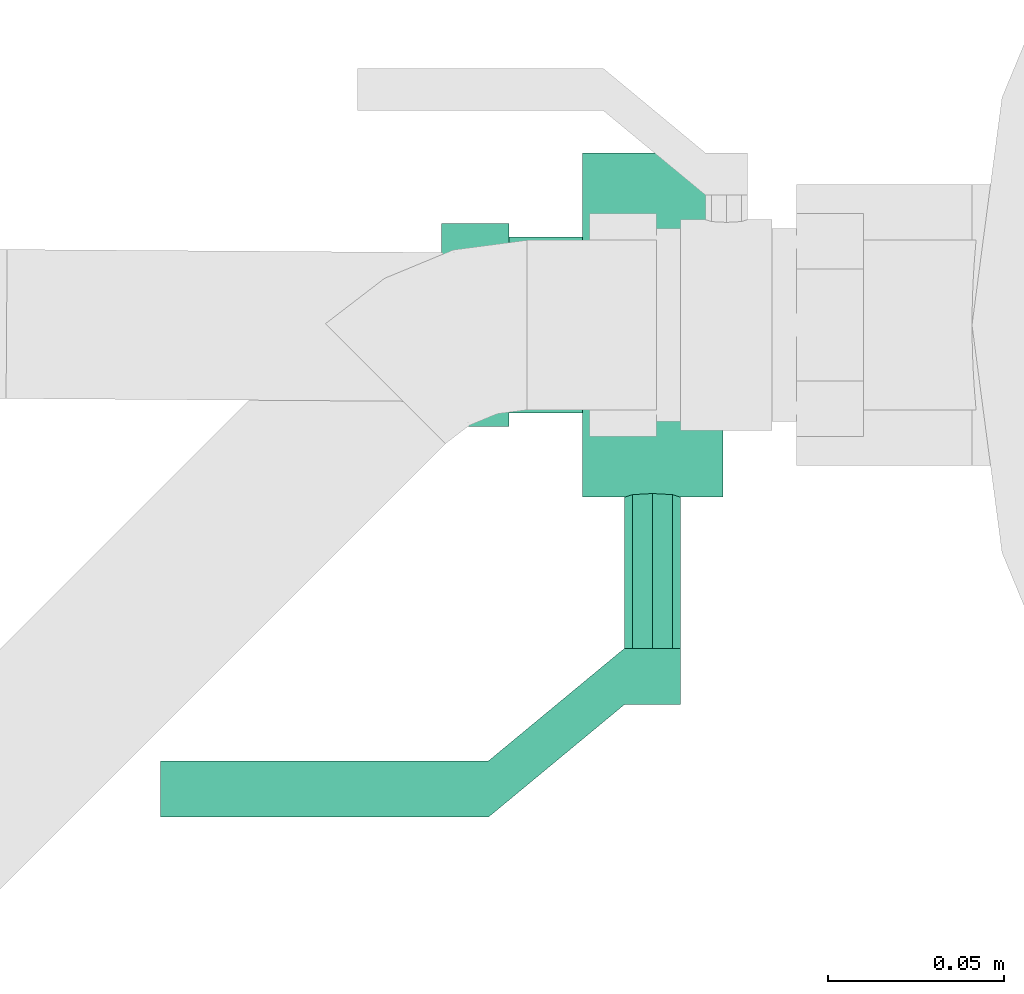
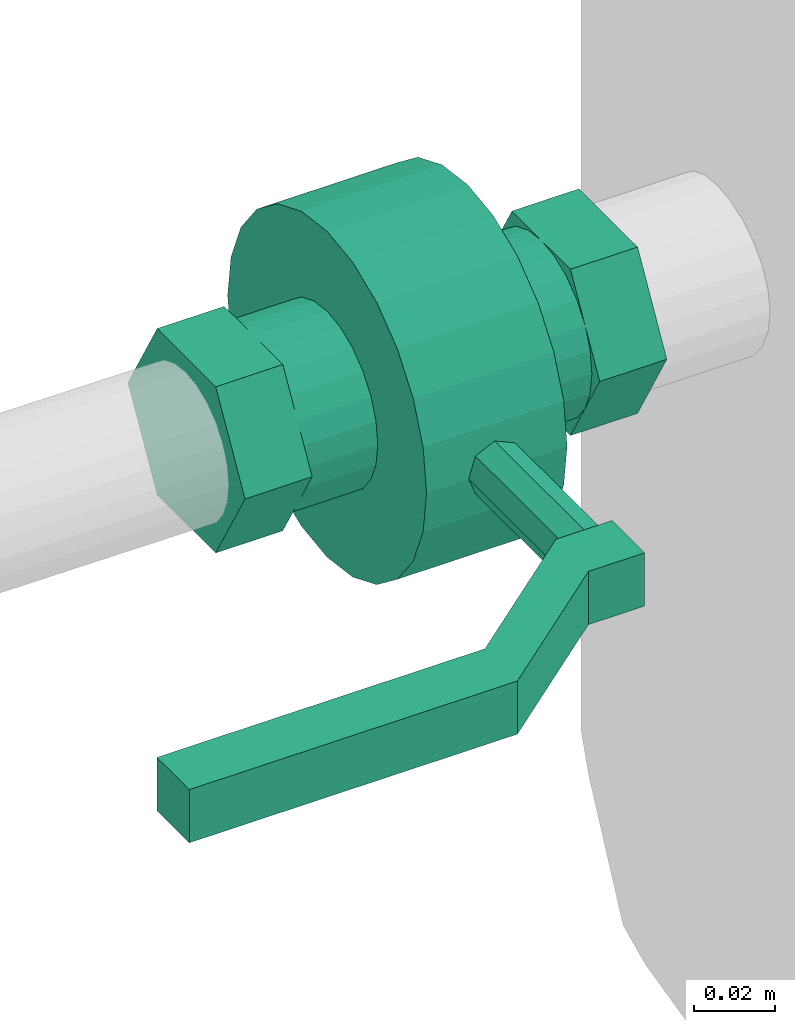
# One storey, part 277 of 374: 1 flow controller.
"""IFC2X3 building model written with IfcOpenShell, lengths in metres."""

import ifcopenshell
import ifcopenshell.guid

model = None  # the IFC model being written
_history = None  # IfcOwnerHistory: only IFC2X3 demands one
_inside = {}  # id of a spatial element -> (the spatial element, [elements in it])
_under = {}  # id of a project, library or spatial element -> (it, [spatial elements below it])
_declared = {}  # id of a project -> (the project, [libraries it declares])
_typed = {}  # id of a type object -> (the type object, [elements of that type])
_made_of = {}  # id of a material, layer set ... -> (it, [elements and type objects made of it])


def new_model(schema):
    """Start an empty IFC model of exactly this schema.

    Asked for "IFC4X3", IfcOpenShell would pick the latest addendum, in which some entities
    have other attributes; the version numbers below select the first issue.
    IFC2X3 requires an IfcOwnerHistory on every rooted entity: one is made here for all.
    """
    global model, _history
    if schema == "IFC4X3":
        model = ifcopenshell.file(schema_version=(4, 3, 0, 0))
    else:
        model = ifcopenshell.file(schema=schema)
    _inside.clear()
    _under.clear()
    _declared.clear()
    _typed.clear()
    _made_of.clear()
    _history = None
    if model.schema == "IFC2X3":
        org = make("IfcOrganization", Name="unknown")
        user = make(
            "IfcPersonAndOrganization",
            ThePerson=make("IfcPerson", FamilyName="unknown"),
            TheOrganization=org,
        )
        app = make(
            "IfcApplication",
            ApplicationDeveloper=org,
            Version="unknown",
            ApplicationFullName="unknown",
            ApplicationIdentifier="unknown",
        )
        _history = make(
            "IfcOwnerHistory",
            OwningUser=user,
            OwningApplication=app,
            ChangeAction="ADDED",
            CreationDate=0,
        )
    return model


def make(cls, **values):
    """One entity of the class cls with the attributes given. An attribute that is None is left unset."""
    return model.create_entity(
        cls, **{name: value for name, value in values.items() if value is not None}
    )


def rooted(cls, **values):
    """An entity with a GlobalId (a new one), such as an element, a storey or a relation."""
    return make(cls, GlobalId=ifcopenshell.guid.new(), OwnerHistory=_history, **values)


def si_unit(unit_type, name, prefix=None):
    """IfcSIUnit, for example si_unit("LENGTHUNIT", "METRE", prefix="MILLI")."""
    return make("IfcSIUnit", UnitType=unit_type, Prefix=prefix, Name=name)


def assignment(units):
    """IfcUnitAssignment: the units of a project."""
    return None if units is None else make("IfcUnitAssignment", Units=units)


def point(xyz):
    """IfcCartesianPoint."""
    return None if xyz is None else make("IfcCartesianPoint", Coordinates=xyz)


def direction(xyz):
    """IfcDirection."""
    return None if xyz is None else make("IfcDirection", DirectionRatios=xyz)


def frame(location, z_axis=None, x_axis=None):
    """IfcAxis2Placement3D, a coordinate frame: its origin and axes. An axis left out is left unset."""
    return make(
        "IfcAxis2Placement3D",
        Location=point(location),
        Axis=direction(z_axis),
        RefDirection=direction(x_axis),
    )


def origin():
    """The frame at (0, 0, 0) with its axes left unset."""
    return frame((0.0, 0.0, 0.0))


def place(relative_to, where):
    """IfcLocalPlacement: puts the frame where relative to a parent placement (None: the world)."""
    return make(
        "IfcLocalPlacement", PlacementRelTo=relative_to, RelativePlacement=where
    )


def context(
    kind, dimensions, precision=None, world=None, true_north=None, identifier=None
):
    """IfcGeometricRepresentationContext, for example the 3D "Model" context."""
    return make(
        "IfcGeometricRepresentationContext",
        ContextIdentifier=identifier,
        ContextType=kind,
        CoordinateSpaceDimension=dimensions,
        Precision=precision,
        WorldCoordinateSystem=world,
        TrueNorth=true_north,
    )


def subcontext(parent, identifier, kind, view, scale=None):
    """IfcGeometricRepresentationSubContext, for example "Body" below "Model"."""
    return make(
        "IfcGeometricRepresentationSubContext",
        ContextIdentifier=identifier,
        ContextType=kind,
        ParentContext=parent,
        TargetScale=scale,
        TargetView=view,
    )


def project(units=None, contexts=None):
    """IfcProject with its units and contexts."""
    return rooted(
        "IfcProject",
        Name="project",
        RepresentationContexts=contexts,
        UnitsInContext=assignment(units),
    )


def spatial(cls, under=None, at=None, **own):
    """A site, building, storey or space (cls), placed at a placement, below another one or the project."""
    s = rooted(cls, ObjectPlacement=at, **own)
    if under is not None:
        _under.setdefault(under.id(), (under, []))[1].append(s)
    return s


def faces_of(points, faces, orient=None, outer=None):
    """IfcFace entities. A face is a list of loops; a loop is a list of indices into points, from 0.

    orient and outer hold one flag for each loop. By default every Orientation is true, the
    first loop of a face is its IfcFaceOuterBound and the others are IfcFaceBound.
    """
    made = []
    for i, loops in enumerate(faces):
        bounds = []
        for j, loop in enumerate(loops):
            is_outer = j == 0 if outer is None else outer[i][j]
            bounds.append(
                make(
                    "IfcFaceOuterBound" if is_outer else "IfcFaceBound",
                    Bound=make("IfcPolyLoop", Polygon=[points[k] for k in loop]),
                    Orientation=True if orient is None else orient[i][j],
                )
            )
        made.append(make("IfcFace", Bounds=bounds))
    return made


def open_shell(faces, orient=None, outer=None):
    """The faces of one IfcOpenShell. surface_model builds it on its shared points."""
    return ("IfcOpenShell", faces, orient, outer)


def surface_model(cls, points, shells):
    """IfcFaceBasedSurfaceModel or IfcShellBasedSurfaceModel (cls): surfaces that need not close."""
    shared = [point(p) for p in points]
    made = [make(c, CfsFaces=faces_of(shared, fs, o, b)) for c, fs, o, b in shells]
    if cls == "IfcFaceBasedSurfaceModel":
        return make(cls, FbsmFaces=made)
    return make(cls, SbsmBoundary=made)


def shape(context_of_items, identifier, shape_type, items):
    """IfcShapeRepresentation: the items that make up one representation, for example the "Body"."""
    return make(
        "IfcShapeRepresentation",
        ContextOfItems=context_of_items,
        RepresentationIdentifier=identifier,
        RepresentationType=shape_type,
        Items=items,
    )


def source(mapping_origin, context_of_items, identifier, shape_type, items):
    """IfcRepresentationMap: a shape defined once, which mapped items show again and again."""
    return make(
        "IfcRepresentationMap",
        MappingOrigin=mapping_origin,
        MappedRepresentation=shape(context_of_items, identifier, shape_type, items),
    )


def transform(
    local_origin,
    x_axis=None,
    y_axis=None,
    z_axis=None,
    scale=None,
    scale2=None,
    scale3=None,
    uniform=True,
):
    """IfcCartesianTransformationOperator3D, or its non-uniform kind. x_axis, y_axis, z_axis: its Axis1, 2, 3."""
    if uniform:
        return make(
            "IfcCartesianTransformationOperator3D",
            Axis1=direction(x_axis),
            Axis2=direction(y_axis),
            LocalOrigin=point(local_origin),
            Scale=scale,
            Axis3=direction(z_axis),
        )
    return make(
        "IfcCartesianTransformationOperator3DnonUniform",
        Axis1=direction(x_axis),
        Axis2=direction(y_axis),
        LocalOrigin=point(local_origin),
        Scale=scale,
        Axis3=direction(z_axis),
        Scale2=scale2,
        Scale3=scale3,
    )


def mapped(mapping_source, mapping_target):
    """IfcMappedItem: shows the shape of a source again, moved by a transform."""
    return make(
        "IfcMappedItem", MappingSource=mapping_source, MappingTarget=mapping_target
    )


def made_of(thing, what):
    """Note that an element or type object is made of a material, layer set ...; save() writes the relation."""
    if what is not None:
        _made_of.setdefault(what.id(), (what, []))[1].append(thing)
    return thing


def element(
    cls,
    number,
    at=None,
    inside=None,
    cuts=None,
    type_object=None,
    material=None,
    context=None,
    identifier="Body",
    shape_type=None,
    held_by="IfcProductDefinitionShape",
    body=None,
    shapes=None,
    **own,
):
    """One element of the class cls, such as IfcWall. Its Tag is "e" and its number.

    at: its placement. inside: the storey or other place that contains it. cuts: it is an
    opening in that element (IfcRelVoidsElement). A single representation is given by context,
    identifier, shape_type and body (its items); several are given by shapes. held_by: the class
    of the entity that holds the representations. save() writes the other relations.
    """
    e = rooted(cls, Tag="e%d" % number, ObjectPlacement=at, **own)
    if body is not None:
        shapes = [shape(context, identifier, shape_type, body)]
    if shapes is not None:
        e.Representation = make(held_by, Representations=shapes)
    if inside is not None:
        _inside.setdefault(inside.id(), (inside, []))[1].append(e)
    if cuts is not None:
        rooted(
            "IfcRelVoidsElement", RelatingBuildingElement=cuts, RelatedOpeningElement=e
        )
    if type_object is not None:
        _typed.setdefault(type_object.id(), (type_object, []))[1].append(e)
    return made_of(e, material)


def aggregate(whole, parts):
    """IfcRelAggregates: a whole, such as a stair, and the parts it consists of."""
    return rooted("IfcRelAggregates", RelatingObject=whole, RelatedObjects=parts)


def save(model, path):
    """Write the relations noted so far, then the file.

    IfcRelAggregates (storeys below a building ...), IfcRelContainedInSpatialStructure (elements
    in a storey), IfcRelDefinesByType, IfcRelAssociatesMaterial and IfcRelDeclares: one each for
    every whole, place, type object, material and project.
    """
    for whole, parts in _under.values():
        aggregate(whole, parts)
    for where, things in _inside.values():
        rooted(
            "IfcRelContainedInSpatialStructure",
            RelatedElements=things,
            RelatingStructure=where,
        )
    for kind, things in _typed.values():
        rooted("IfcRelDefinesByType", RelatedObjects=things, RelatingType=kind)
    for what, things in _made_of.values():
        rooted("IfcRelAssociatesMaterial", RelatedObjects=things, RelatingMaterial=what)
    for by, libraries in _declared.values():
        rooted("IfcRelDeclares", RelatingContext=by, RelatedDefinitions=libraries)
    model.write(path)


model = new_model("IFC2X3")

# Units and contexts
model_context = context("Model", 3, precision=1e-05, world=origin(), true_north=direction((-0.4480736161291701, 0.8939966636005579)))
body_context = subcontext(model_context, "Body", "Model", "MODEL_VIEW")
ifc_project = project(units=[si_unit("LENGTHUNIT", "METRE"), si_unit("AREAUNIT", "SQUARE_METRE"), si_unit("VOLUMEUNIT", "CUBIC_METRE"), si_unit("PLANEANGLEUNIT", "RADIAN"), si_unit("THERMODYNAMICTEMPERATUREUNIT", "KELVIN"), si_unit("MASSUNIT", "GRAM", prefix="KILO"), si_unit("TIMEUNIT", "SECOND")], contexts=[model_context])

# Site, building, storey
site_placement = place(None, origin())
site = spatial("IfcSite", under=ifc_project, at=site_placement, Name="Site 1", CompositionType="ELEMENT")
building_placement = place(site_placement, origin())
building = spatial("IfcBuilding", under=site, at=building_placement, Name="Undefined", CompositionType="ELEMENT")
storey_placement = place(building_placement, origin())
storey = spatial("IfcBuildingStorey", under=building, at=storey_placement, Name="Rez de chauss\x8ee", CompositionType="ELEMENT", Elevation=0.0)

# Flow controller
shared_shape = source(origin(), body_context, "Body", "SurfaceModel", [
    surface_model("IfcFaceBasedSurfaceModel", [(0.0, 0.015999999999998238, 0.0), (0.0, 0.0, 0.0), (0.016000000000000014, 0.0, 0.0), (0.016000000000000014, 0.015999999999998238, 0.0), (0.0, 0.0, -0.016000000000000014), (0.016000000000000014, 0.0, -0.016000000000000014), (0.0, 0.015999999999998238, -0.016000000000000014), (0.016000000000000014, 0.015999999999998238, -0.016000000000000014), (0.0, 0.05466666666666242, -0.04800000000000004), (0.016000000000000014, 0.05466666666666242, -0.04800000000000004), (0.0, 0.14799999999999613, -0.04800000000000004), (0.016000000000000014, 0.14799999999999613, -0.04800000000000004), (0.0, 0.14799999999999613, -0.03200000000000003), (0.016000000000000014, 0.14799999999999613, -0.03200000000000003), (0.0, 0.05466666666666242, -0.03200000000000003), (0.016000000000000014, 0.05466666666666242, -0.03200000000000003), (0.03300000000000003, -0.0519999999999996, 0.10643375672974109), (0.03300000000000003, -0.0519999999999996, 0.07756624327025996), (0.03300000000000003, -0.032900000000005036, 0.07756624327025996), (0.03300000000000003, -0.032900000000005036, 0.10643375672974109), (0.008000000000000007, -0.0519999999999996, 0.12086751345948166), (0.008000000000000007, -0.032900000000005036, 0.12086751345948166), (-0.017000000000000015, -0.0519999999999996, 0.10643375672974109), (-0.017000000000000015, -0.032900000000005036, 0.10643375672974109), (-0.017000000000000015, -0.0519999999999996, 0.07756624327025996), (-0.017000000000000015, -0.032900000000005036, 0.07756624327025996), (0.008000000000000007, -0.0519999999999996, 0.0631324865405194), (0.008000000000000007, -0.032900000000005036, 0.0631324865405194), (-0.017000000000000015, -0.032900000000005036, 0.09200000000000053), (-0.016148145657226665, -0.032900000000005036, 0.09847047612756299), (-0.016148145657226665, -0.012000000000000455, 0.09847047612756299), (-0.017000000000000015, -0.012000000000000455, 0.09200000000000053), (-0.013650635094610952, -0.032900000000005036, 0.10449999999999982), (-0.013650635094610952, -0.012000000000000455, 0.10449999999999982), (-0.009677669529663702, -0.032900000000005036, 0.10967766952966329), (-0.009677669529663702, -0.012000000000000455, 0.10967766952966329), (-0.004500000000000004, -0.032900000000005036, 0.11365063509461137), (-0.004500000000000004, -0.012000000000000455, 0.11365063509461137), (0.0015295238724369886, -0.032900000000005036, 0.11614814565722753), (0.0015295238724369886, -0.012000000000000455, 0.11614814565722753), (0.008000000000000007, -0.032900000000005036, 0.11700000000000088), (0.008000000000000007, -0.012000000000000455, 0.11700000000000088), (0.014470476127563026, -0.032900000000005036, 0.11614814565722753), (0.014470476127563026, -0.012000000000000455, 0.11614814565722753), (0.020500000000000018, -0.032900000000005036, 0.11365063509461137), (0.020500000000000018, -0.012000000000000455, 0.11365063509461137), (0.025677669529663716, -0.032900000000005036, 0.10967766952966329), (0.025677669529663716, -0.012000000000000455, 0.10967766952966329), (0.029650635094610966, -0.032900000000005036, 0.10449999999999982), (0.029650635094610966, -0.012000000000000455, 0.10449999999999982), (0.03214814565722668, -0.032900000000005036, 0.09847047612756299), (0.03214814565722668, -0.012000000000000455, 0.09847047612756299), (0.03300000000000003, -0.032900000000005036, 0.09200000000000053), (0.03300000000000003, -0.012000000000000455, 0.09200000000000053), (0.03214814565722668, -0.032900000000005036, 0.08552952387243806), (0.03214814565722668, -0.012000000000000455, 0.08552952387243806), (0.029650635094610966, -0.032900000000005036, 0.07949999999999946), (0.029650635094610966, -0.012000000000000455, 0.07949999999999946), (0.025677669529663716, -0.032900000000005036, 0.07432233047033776), (0.025677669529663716, -0.012000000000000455, 0.07432233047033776), (0.020500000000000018, -0.032900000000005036, 0.07034936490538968), (0.020500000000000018, -0.012000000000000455, 0.07034936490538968), (0.014470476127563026, -0.032900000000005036, 0.06785185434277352), (0.014470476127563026, -0.012000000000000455, 0.06785185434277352), (0.008000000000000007, -0.032900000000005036, 0.06700000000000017), (0.008000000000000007, -0.012000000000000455, 0.06700000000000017), (0.0015295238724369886, -0.032900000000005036, 0.06785185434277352), (0.0015295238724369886, -0.012000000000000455, 0.06785185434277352), (-0.004500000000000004, -0.032900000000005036, 0.07034936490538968), (-0.004500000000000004, -0.012000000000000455, 0.07034936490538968), (-0.009677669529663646, -0.032900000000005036, 0.07432233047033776), (-0.009677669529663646, -0.012000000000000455, 0.07432233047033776), (-0.013650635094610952, -0.032900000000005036, 0.07949999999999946), (-0.013650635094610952, -0.012000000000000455, 0.07949999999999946), (-0.016148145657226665, -0.032900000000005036, 0.08552952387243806), (-0.016148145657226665, -0.012000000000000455, 0.08552952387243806), (-0.04099999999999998, -0.012000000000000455, 0.09200000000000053), (-0.039330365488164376, -0.012000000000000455, 0.10468213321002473), (-0.039330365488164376, 0.027999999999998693, 0.10468213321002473), (-0.04099999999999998, 0.027999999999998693, 0.09200000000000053), (-0.03443524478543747, -0.012000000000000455, 0.11650000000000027), (-0.03443524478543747, 0.027999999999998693, 0.11650000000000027), (-0.026648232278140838, -0.012000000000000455, 0.12664823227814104), (-0.026648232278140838, 0.027999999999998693, 0.12664823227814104), (-0.016500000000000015, -0.012000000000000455, 0.134435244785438), (-0.016500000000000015, 0.027999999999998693, 0.134435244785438), (-0.004682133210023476, -0.012000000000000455, 0.13933036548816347), (-0.004682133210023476, 0.027999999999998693, 0.13933036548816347), (0.008000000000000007, -0.012000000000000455, 0.14100000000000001), (0.008000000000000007, 0.027999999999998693, 0.14100000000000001), (0.02068213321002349, -0.012000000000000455, 0.13933036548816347), (0.02068213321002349, 0.027999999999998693, 0.13933036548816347), (0.03250000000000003, -0.012000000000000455, 0.134435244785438), (0.03250000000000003, 0.027999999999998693, 0.134435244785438), (0.04264823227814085, -0.012000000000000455, 0.12664823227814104), (0.04264823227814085, 0.027999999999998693, 0.12664823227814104), (0.05043524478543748, -0.012000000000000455, 0.11650000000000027), (0.05043524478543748, 0.027999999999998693, 0.11650000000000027), (0.05533036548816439, -0.012000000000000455, 0.10468213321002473), (0.05533036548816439, 0.027999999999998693, 0.10468213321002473), (0.056999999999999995, -0.012000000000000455, 0.09200000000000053), (0.056999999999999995, 0.027999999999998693, 0.09200000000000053), (0.05533036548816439, -0.012000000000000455, 0.07931786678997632), (0.05533036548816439, 0.027999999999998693, 0.07931786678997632), (0.05043524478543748, -0.012000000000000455, 0.06750000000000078), (0.05043524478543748, 0.027999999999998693, 0.06750000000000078), (0.04264823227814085, -0.012000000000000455, 0.05735176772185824), (0.04264823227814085, 0.027999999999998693, 0.05735176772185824), (0.03250000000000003, -0.012000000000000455, 0.04956475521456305), (0.03250000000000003, 0.027999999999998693, 0.04956475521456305), (0.020682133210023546, -0.012000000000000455, 0.04466963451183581), (0.020682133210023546, 0.027999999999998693, 0.04466963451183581), (0.008000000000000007, -0.012000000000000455, 0.04300000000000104), (0.008000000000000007, 0.027999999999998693, 0.04300000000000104), (-0.004682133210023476, -0.012000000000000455, 0.04466963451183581), (-0.004682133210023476, 0.027999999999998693, 0.04466963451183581), (-0.016500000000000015, -0.012000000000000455, 0.04956475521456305), (-0.016500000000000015, 0.027999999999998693, 0.04956475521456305), (-0.026648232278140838, -0.012000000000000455, 0.05735176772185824), (-0.026648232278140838, 0.027999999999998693, 0.05735176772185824), (-0.03443524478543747, -0.012000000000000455, 0.06750000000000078), (-0.03443524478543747, 0.027999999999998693, 0.06750000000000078), (-0.039330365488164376, -0.012000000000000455, 0.07931786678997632), (-0.039330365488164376, 0.027999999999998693, 0.07931786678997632), (0.008000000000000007, -0.012000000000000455, 0.09200000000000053), (0.008000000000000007, 0.027999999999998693, 0.09200000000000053), (-0.017000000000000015, 0.027999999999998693, 0.09200000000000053), (-0.016148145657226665, 0.027999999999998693, 0.09847047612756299), (-0.016148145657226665, 0.048900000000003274, 0.09847047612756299), (-0.017000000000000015, 0.048900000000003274, 0.09200000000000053), (-0.013650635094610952, 0.027999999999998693, 0.10449999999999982), (-0.013650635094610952, 0.048900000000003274, 0.10449999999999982), (-0.009677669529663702, 0.027999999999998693, 0.10967766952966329), (-0.009677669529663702, 0.048900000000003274, 0.10967766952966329), (-0.004500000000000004, 0.027999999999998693, 0.11365063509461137), (-0.004500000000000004, 0.048900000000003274, 0.11365063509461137), (0.0015295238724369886, 0.027999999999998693, 0.11614814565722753), (0.0015295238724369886, 0.048900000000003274, 0.11614814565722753), (0.008000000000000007, 0.027999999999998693, 0.11700000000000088), (0.008000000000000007, 0.048900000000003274, 0.11700000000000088), (0.014470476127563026, 0.027999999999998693, 0.11614814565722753), (0.014470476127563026, 0.048900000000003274, 0.11614814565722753), (0.020500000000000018, 0.027999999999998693, 0.11365063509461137), (0.020500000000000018, 0.048900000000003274, 0.11365063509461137), (0.025677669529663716, 0.027999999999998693, 0.10967766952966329), (0.025677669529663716, 0.048900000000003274, 0.10967766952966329), (0.029650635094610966, 0.027999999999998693, 0.10449999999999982), (0.029650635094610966, 0.048900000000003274, 0.10449999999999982), (0.03214814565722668, 0.027999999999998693, 0.09847047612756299), (0.03214814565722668, 0.048900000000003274, 0.09847047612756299), (0.03300000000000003, 0.027999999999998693, 0.09200000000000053), (0.03300000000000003, 0.048900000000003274, 0.09200000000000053), (0.03214814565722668, 0.027999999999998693, 0.08552952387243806), (0.03214814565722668, 0.048900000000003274, 0.08552952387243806), (0.029650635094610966, 0.027999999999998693, 0.07949999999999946), (0.029650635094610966, 0.048900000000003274, 0.07949999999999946), (0.025677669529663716, 0.027999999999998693, 0.07432233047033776), (0.025677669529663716, 0.048900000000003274, 0.07432233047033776), (0.020500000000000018, 0.027999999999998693, 0.07034936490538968), (0.020500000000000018, 0.048900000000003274, 0.07034936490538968), (0.014470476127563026, 0.027999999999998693, 0.06785185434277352), (0.014470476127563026, 0.048900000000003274, 0.06785185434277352), (0.008000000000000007, 0.027999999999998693, 0.06700000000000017), (0.008000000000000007, 0.048900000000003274, 0.06700000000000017), (0.0015295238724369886, 0.027999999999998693, 0.06785185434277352), (0.0015295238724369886, 0.048900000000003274, 0.06785185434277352), (-0.004500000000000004, 0.027999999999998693, 0.07034936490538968), (-0.004500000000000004, 0.048900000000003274, 0.07034936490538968), (-0.009677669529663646, 0.027999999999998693, 0.07432233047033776), (-0.009677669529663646, 0.048900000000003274, 0.07432233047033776), (-0.013650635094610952, 0.027999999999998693, 0.07949999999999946), (-0.013650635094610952, 0.048900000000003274, 0.07949999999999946), (-0.016148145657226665, 0.027999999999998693, 0.08552952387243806), (-0.016148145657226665, 0.048900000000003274, 0.08552952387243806), (0.03300000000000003, 0.048900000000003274, 0.10643375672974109), (0.03300000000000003, 0.048900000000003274, 0.07756624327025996), (0.03300000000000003, 0.06799999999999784, 0.07756624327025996), (0.03300000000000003, 0.06799999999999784, 0.10643375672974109), (0.008000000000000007, 0.048900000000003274, 0.12086751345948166), (0.008000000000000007, 0.06799999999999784, 0.12086751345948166), (-0.017000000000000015, 0.048900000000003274, 0.10643375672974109), (-0.017000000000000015, 0.06799999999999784, 0.10643375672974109), (-0.017000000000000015, 0.048900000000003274, 0.07756624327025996), (-0.017000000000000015, 0.06799999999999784, 0.07756624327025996), (0.007999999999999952, 0.048900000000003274, 0.0631324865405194), (0.007999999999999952, 0.06799999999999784, 0.0631324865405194), (0.008000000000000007, 0.015999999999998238, 0.09200000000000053), (0.013656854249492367, 0.013656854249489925, 0.09200000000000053), (0.013656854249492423, 0.013656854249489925, 0.0), (0.008000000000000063, 0.015999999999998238, 0.0), (0.016000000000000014, 0.008000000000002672, 0.09200000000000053), (0.016000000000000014, 0.008000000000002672, 0.0), (0.013656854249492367, 0.002343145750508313, 0.09200000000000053), (0.013656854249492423, 0.002343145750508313, 0.0), (0.008000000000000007, 0.0, 0.09200000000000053), (0.008000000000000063, 0.0, 0.0), (0.002343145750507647, 0.002343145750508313, 0.09200000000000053), (0.002343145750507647, 0.002343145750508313, 0.0), (0.0, 0.008000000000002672, 0.09200000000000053), (0.0, 0.008, 0.0), (0.002343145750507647, 0.013656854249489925, 0.09200000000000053), (0.002343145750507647, 0.013656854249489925, 0.0)], [open_shell([[[0, 1, 2, 3]], [[1, 4, 5, 2]], [[4, 6, 7, 5]], [[6, 8, 9, 7]], [[8, 10, 11, 9]], [[10, 12, 13, 11]], [[12, 14, 15, 13]], [[14, 0, 3, 15]], [[2, 7, 3]], [[9, 3, 7]], [[3, 9, 15]], [[11, 15, 9]], [[15, 11, 13]], [[7, 2, 5]], [[0, 6, 1]], [[6, 0, 8]], [[14, 8, 0]], [[8, 14, 10]], [[12, 10, 14]], [[4, 1, 6]], [[16, 17, 18, 19]], [[20, 16, 19, 21]], [[22, 20, 21, 23]], [[24, 22, 23, 25]], [[26, 24, 25, 27]], [[17, 26, 27, 18]], [[17, 16, 20]], [[17, 20, 22]], [[17, 22, 24]], [[17, 24, 26]], [[18, 21, 19]], [[18, 23, 21]], [[18, 25, 23]], [[18, 27, 25]], [[28, 29, 30, 31]], [[29, 32, 33, 30]], [[32, 34, 35, 33]], [[34, 36, 37, 35]], [[36, 38, 39, 37]], [[38, 40, 41, 39]], [[40, 42, 43, 41]], [[42, 44, 45, 43]], [[44, 46, 47, 45]], [[46, 48, 49, 47]], [[48, 50, 51, 49]], [[50, 52, 53, 51]], [[52, 54, 55, 53]], [[54, 56, 57, 55]], [[56, 58, 59, 57]], [[58, 60, 61, 59]], [[60, 62, 63, 61]], [[62, 64, 65, 63]], [[64, 66, 67, 65]], [[66, 68, 69, 67]], [[68, 70, 71, 69]], [[70, 72, 73, 71]], [[72, 74, 75, 73]], [[74, 28, 31, 75]], [[76, 77, 78, 79]], [[77, 80, 81, 78]], [[80, 82, 83, 81]], [[82, 84, 85, 83]], [[84, 86, 87, 85]], [[86, 88, 89, 87]], [[88, 90, 91, 89]], [[90, 92, 93, 91]], [[92, 94, 95, 93]], [[94, 96, 97, 95]], [[96, 98, 99, 97]], [[98, 100, 101, 99]], [[100, 102, 103, 101]], [[102, 104, 105, 103]], [[104, 106, 107, 105]], [[106, 108, 109, 107]], [[108, 110, 111, 109]], [[110, 112, 113, 111]], [[112, 114, 115, 113]], [[114, 116, 117, 115]], [[116, 118, 119, 117]], [[118, 120, 121, 119]], [[120, 122, 123, 121]], [[122, 76, 79, 123]], [[124, 77, 76]], [[124, 80, 77]], [[124, 82, 80]], [[124, 84, 82]], [[124, 86, 84]], [[124, 88, 86]], [[124, 90, 88]], [[124, 92, 90]], [[124, 94, 92]], [[124, 96, 94]], [[124, 98, 96]], [[124, 100, 98]], [[124, 102, 100]], [[124, 104, 102]], [[124, 106, 104]], [[124, 108, 106]], [[124, 110, 108]], [[124, 112, 110]], [[124, 114, 112]], [[124, 116, 114]], [[124, 118, 116]], [[124, 120, 118]], [[124, 122, 120]], [[124, 76, 122]], [[125, 123, 79]], [[125, 121, 123]], [[125, 119, 121]], [[125, 117, 119]], [[125, 115, 117]], [[125, 113, 115]], [[125, 111, 113]], [[125, 109, 111]], [[125, 107, 109]], [[125, 105, 107]], [[125, 103, 105]], [[125, 101, 103]], [[125, 99, 101]], [[125, 97, 99]], [[125, 95, 97]], [[125, 93, 95]], [[125, 91, 93]], [[125, 89, 91]], [[125, 87, 89]], [[125, 85, 87]], [[125, 83, 85]], [[125, 81, 83]], [[125, 78, 81]], [[125, 79, 78]], [[126, 127, 128, 129]], [[127, 130, 131, 128]], [[130, 132, 133, 131]], [[132, 134, 135, 133]], [[134, 136, 137, 135]], [[136, 138, 139, 137]], [[138, 140, 141, 139]], [[140, 142, 143, 141]], [[142, 144, 145, 143]], [[144, 146, 147, 145]], [[146, 148, 149, 147]], [[148, 150, 151, 149]], [[150, 152, 153, 151]], [[152, 154, 155, 153]], [[154, 156, 157, 155]], [[156, 158, 159, 157]], [[158, 160, 161, 159]], [[160, 162, 163, 161]], [[162, 164, 165, 163]], [[164, 166, 167, 165]], [[166, 168, 169, 167]], [[168, 170, 171, 169]], [[170, 172, 173, 171]], [[172, 126, 129, 173]], [[174, 175, 176, 177]], [[178, 174, 177, 179]], [[180, 178, 179, 181]], [[182, 180, 181, 183]], [[184, 182, 183, 185]], [[175, 184, 185, 176]], [[175, 174, 178]], [[175, 178, 180]], [[175, 180, 182]], [[175, 182, 184]], [[176, 179, 177]], [[176, 181, 179]], [[176, 183, 181]], [[176, 185, 183]], [[186, 187, 188, 189]], [[187, 190, 191, 188]], [[190, 192, 193, 191]], [[192, 194, 195, 193]], [[194, 196, 197, 195]], [[196, 198, 199, 197]], [[198, 200, 201, 199]], [[200, 186, 189, 201]]])]),
])
flow_controller_placement = place(storey_placement, origin())
element("IfcFlowController", 1, at=flow_controller_placement, inside=storey, Name="Robinet à boisseau sphérique", ObjectType="Robinet à boisseau sphérique", context=body_context, shape_type="MappedRepresentation", body=[
    mapped(shared_shape, transform((53.30303762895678, 11.616084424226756, 0.38215), x_axis=(0.0, 0.0, -1.0), y_axis=(-1.0, 0.0, 0.0), z_axis=(0.0, 1.0, 0.0))),
])

save(model, "model.ifc")
